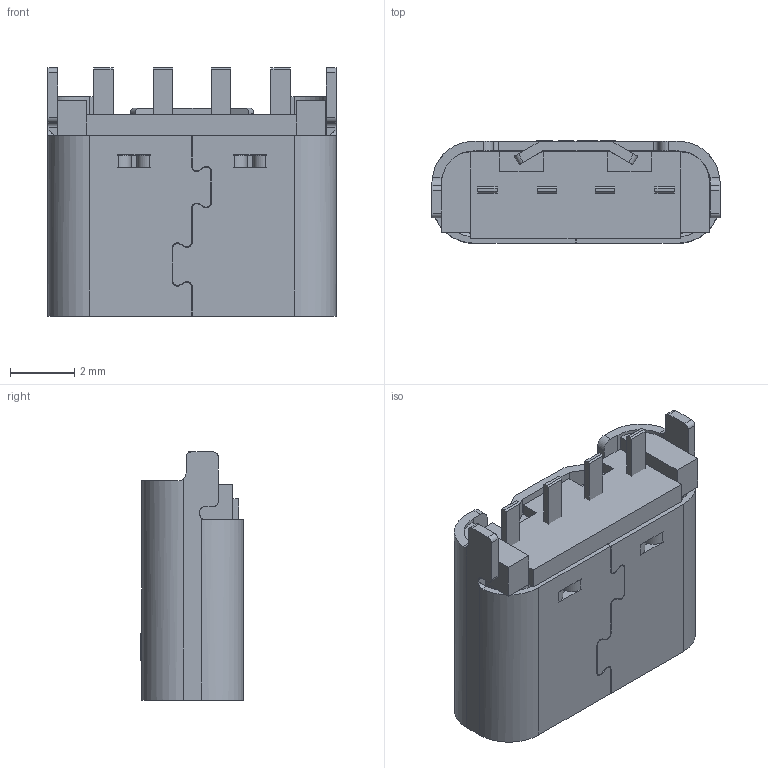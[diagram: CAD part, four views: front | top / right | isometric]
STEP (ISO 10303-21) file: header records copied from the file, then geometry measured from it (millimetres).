
FILE_DESCRIPTION (( 'STEP AP214' ), '1' );
FILE_NAME ('U5267-04PN6.8L.STEP', '2026-07-29T07:33:39', ( '' ), ( '' ), 'SwSTEP 2.0', 'SolidWorks 2024', '' );
FILE_SCHEMA (( 'AUTOMOTIVE_DESIGN' ));
Length unit declared in the file: millimetre
Products named in the file (17): MANIFOLD_SOLID_BREP_31803; MANIFOLD_SOLID_BREP_26668.1; U5267-04PN6.8L(2); MANIFOLD_SOLID_BREP_30261; TER-T-0_20MM_S16; MANIFOLD_SOLID_BREP_33749.1; BOTTOM-HOUSING0; MANIFOLD_SOLID_BREP_26668; MANIFOLD_SOLID_BREP_30261.1; SHELL-SHELL-004; USB-TYPEC-CENBAN-003_ASM_6; MANIFOLD_SOLID_BREP_33749; U5267-04PN6.8L; MANIFOLD_SOLID_BREP_31803.1; typec-6pin立式插板-1.stp; typec-6pin立式插板.stp; USB-TYPEC-CENBAN-_1_6_ASM
Assembly tree (16 placements, depth 8):
  U5267-04PN6.8L
    U5267-04PN6.8L(2)
      typec-6pin立式插板-1.stp
        typec-6pin立式插板.stp
          USB-TYPEC-CENBAN-_1_6_ASM
            USB-TYPEC-CENBAN-003_ASM_6
              TER-T-0_20MM_S16
                MANIFOLD_SOLID_BREP_30261
                MANIFOLD_SOLID_BREP_31803
                MANIFOLD_SOLID_BREP_33749
                MANIFOLD_SOLID_BREP_26668
                MANIFOLD_SOLID_BREP_30261.1
                MANIFOLD_SOLID_BREP_31803.1
                MANIFOLD_SOLID_BREP_26668.1
                MANIFOLD_SOLID_BREP_33749.1
            SHELL-SHELL-004
            BOTTOM-HOUSING0
Bounding box: 8.94 x 3.19 x 7.7 mm (x, y, z)
Volume: 95.3 mm3; surface area: 503.2 mm2
Topology: 10 solids, 10 shells, 657 faces, 1834 edges, 1194 vertices
Faces by surface type: plane 452, cylinder 154, bspline 25, cone 14, sphere 8, torus 4
Entity records: 22894 total; most frequent: CARTESIAN_POINT 5415, ORIENTED_EDGE 3660, DIRECTION 3384, EDGE_CURVE 1830, VECTOR 1430, LINE 1430, VERTEX_POINT 1194, AXIS2_PLACEMENT_3D 977
